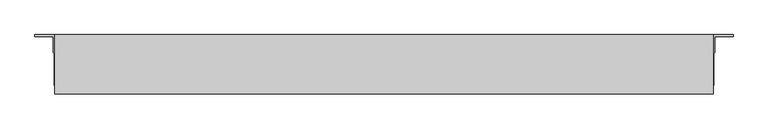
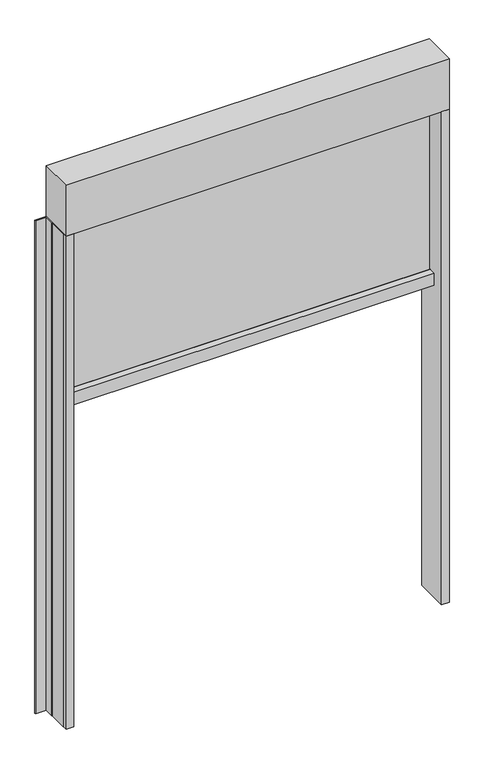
"""IFC4 building model written with IfcOpenShell, lengths in millimetres: proxy geometry, Renson_Fixscreen_Minimal_Single : Recessed - Front of the window - Small - Access downwards - Fabric close to the window."""

from ifc_helpers import new_model, si_unit, point, frame, frame_2d, origin, origin_with_axes, place, context, project, spatial, polyline, circle_curve, trimmed, segment, composite_curve, outline, extrude, source, transform, mapped, element, save


def generic_models_7c2f78a0(model_context):
    return source(origin(), model_context, "Body", "SweptSolid", [
        extrude(outline(polyline([(480.0, 603.5959909), (480.0, 693.5959909), (530.0000015, 693.5959909), (530.0000015, 690.5959909), (502.1058338, 690.5959909), (502.1058338, 666.1559251), (500.9999986, 664.6627313), (500.9999986, 616.4160689), (500.0, 615.0136452), (500.0, 603.5959909), (480.0, 603.5959909)])), origin_with_axes(), (0.0, 0.0, 1.0), 1360.0),
        extrude(outline(polyline([(-480.0, 603.5959909), (-500.0, 603.5959909), (-500.0, 615.0136452), (-500.9999986, 616.4160689), (-500.9999986, 664.6627313), (-502.1058338, 666.1559251), (-502.1058338, 690.5959909), (-530.0000015, 690.5959909), (-530.0000015, 693.5959909), (-480.0, 693.5959909), (-480.0, 603.5959909)])), origin_with_axes(), (0.0, 0.0, 1.0), 1360.0),
        extrude(outline(composite_curve([segment(polyline([(678.5959909, 860.0), (638.0960943, 860.0), (638.0960943, 894.1156826), (655.2198229, 895.0)]), True, "CONTINUOUS"), segment(trimmed(circle_curve(frame_2d((655.2459909, 894.5006852)), 0.5), [point((655.2198229, 895.0))], [point((655.7459909, 894.5006852))], False, "CARTESIAN"), True, "CONTINUOUS"), segment(polyline([(655.7459909, 894.5006852), (655.7459909, 893.5367989), (654.4808525, 893.5367989), (655.221156, 889.0119223)]), True, "CONTINUOUS"), segment(trimmed(circle_curve(frame_2d((615.7459909, 882.5534911)), 40.0), [point((655.221156, 889.0119223))], [point((655.7459909, 882.5534911))], False, "CARTESIAN"), True, "CONTINUOUS"), segment(polyline([(655.7459909, 882.5534911), (655.7459909, 874.5006852)]), True, "CONTINUOUS"), segment(trimmed(circle_curve(frame_2d((657.7459909, 874.5006852)), 2.0), [point((655.7459909, 874.5006852))], [point((657.7459909, 872.5006852))], True, "CARTESIAN"), True, "CONTINUOUS"), segment(polyline([(657.7459909, 872.5006852), (659.4459909, 872.5006852)]), True, "CONTINUOUS"), segment(trimmed(circle_curve(frame_2d((659.4459909, 874.5006852)), 2.0), [point((659.4459909, 872.5006852))], [point((661.4459909, 874.5006852))], True, "CARTESIAN"), True, "CONTINUOUS"), segment(polyline([(661.4459909, 874.5006852), (661.4459909, 882.5534911)]), True, "CONTINUOUS"), segment(trimmed(circle_curve(frame_2d((701.4459909, 882.5534911)), 40.0), [point((661.4459909, 882.5534911))], [point((661.9708257, 889.0119223))], False, "CARTESIAN"), True, "CONTINUOUS"), segment(polyline([(661.9708257, 889.0119223), (662.7111292, 893.5367989), (661.4459909, 893.5367989), (661.4459909, 894.5006852)]), True, "CONTINUOUS"), segment(trimmed(circle_curve(frame_2d((661.9459909, 894.5006852)), 0.5), [point((661.4459909, 894.5006852))], [point((661.9721588, 895.0))], False, "CARTESIAN"), True, "CONTINUOUS"), segment(polyline([(661.9721588, 895.0), (678.5959909, 894.1156826), (678.5959909, 860.0)]), True, "CONTINUOUS")], self_intersect=False)), frame((-480.0, 0.0, 0.0), z_axis=(1.0, 0.0, 0.0), x_axis=(0.0, 1.0, 0.0)), (0.0, 0.0, 1.0), 960.0),
        extrude(outline(polyline([(-500.0, 603.5959909), (-500.0, 693.5959909), (500.0, 693.5959909), (500.0, 603.5959909), (-500.0, 603.5959909)])), frame((0.0, 0.0, 1360.0), z_axis=(0.0, 0.0, 1.0), x_axis=(1.0, 0.0, 0.0)), (0.0, 0.0, 1.0), 140.0),
        extrude(outline(polyline([(-480.0, 660.0959909), (480.0, 660.0959909), (480.0, 657.0959909), (-480.0, 657.0959909), (-480.0, 660.0959909)])), frame((0.0, 0.0, 872.5006852), z_axis=(0.0, 0.0, 1.0), x_axis=(1.0, 0.0, 0.0)), (0.0, 0.0, 1.0), 487.4993148),
    ])


if __name__ == "__main__":
    model = new_model("IFC4")
    model_context = context("Model", 3, world=origin())
    ifc_project = project(units=[si_unit("LENGTHUNIT", "METRE", prefix="MILLI")], contexts=[model_context])
    site = spatial("IfcSite", under=ifc_project)
    building = spatial("IfcBuilding", under=site)
    placement = place(None, origin())
    generic_models_shape = generic_models_7c2f78a0(model_context)
    element("IfcBuildingElementProxy", 1, Name="Renson_Fixscreen_Minimal_Single : Recessed - Front of the window - Small - Access downwards - Fabric close to the window", ObjectType="Renson_Fixscreen_Minimal_Single : Recessed - Front of the window - Small - Access downwards - Fabric close to the window", at=placement, inside=building, context=model_context, shape_type="MappedRepresentation", body=[
        mapped(generic_models_shape, transform((0.0, 0.0, 0.0), x_axis=(1.0, 0.0, 0.0), y_axis=(0.0, 1.0, 0.0), z_axis=(0.0, 0.0, 1.0))),
    ])
    save(model, "model.ifc")
